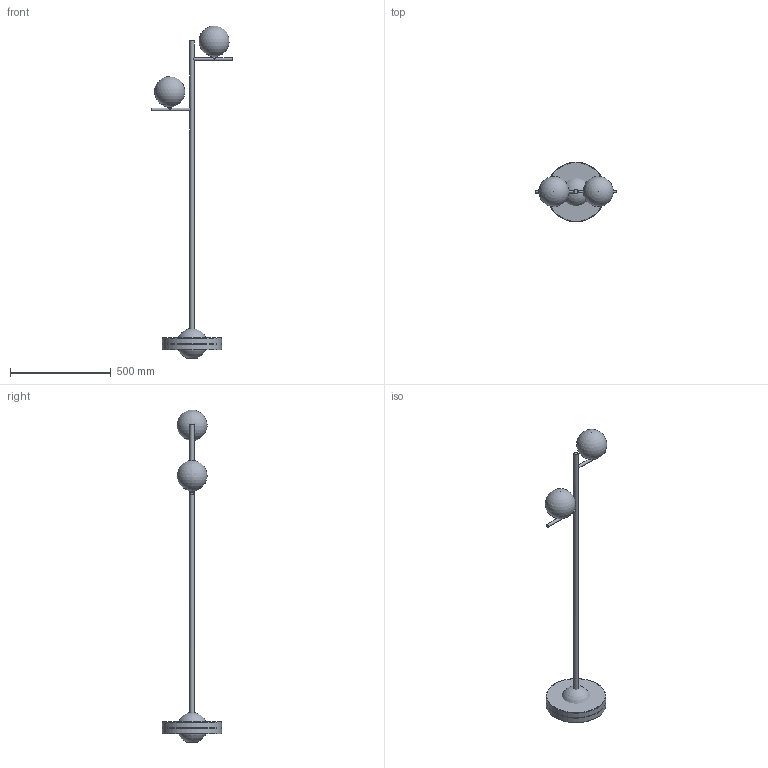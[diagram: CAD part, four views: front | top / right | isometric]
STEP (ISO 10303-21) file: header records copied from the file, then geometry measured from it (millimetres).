
FILE_DESCRIPTION( ( 'STEP AP203' ), '1' );
FILE_NAME( '//srvbf/BF Disegni/ATHENA/ATHENA-P Piantana 3D.stp', '2020-10-16T13:07:21', ( ' ' ), ( ' ' ), 'XStep 1.0', ' ', ' ' );
FILE_SCHEMA( ( 'CONFIG_CONTROL_DESIGN) ( )' ) );
Length unit declared in the file: metre
Products named in the file (5): Assem1; 1; 2; 3; 4
Bounding box: 400 x 295 x 1644.42 mm (x, y, z)
Volume: 1466974.2 mm3; surface area: 1044425.4 mm2
Topology: 10 solids, 10 shells, 76 faces, 157 edges, 105 vertices
Faces by surface type: cylinder 30, plane 30, sphere 12, torus 4
Full cylindrical faces by diameter (mm): 8.917 x6, 10 x5, 10.5 x2, 14 x8, 20 x2, 48 x3, 293 x2, 295 x2
Entity records: 1262 total; most frequent: CARTESIAN_POINT 437, DIRECTION 144, AXIS2_PLACEMENT_3D 72, ORIENTED_EDGE 70, EDGE_LOOP 66, FACE_OUTER_BOUND 52, EDGE_CURVE 35, VERTEX_POINT 35
